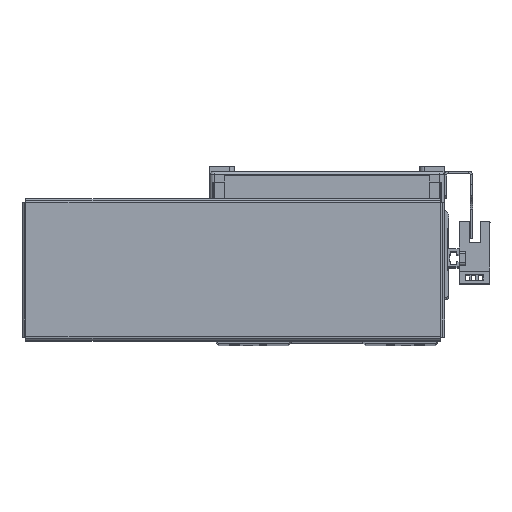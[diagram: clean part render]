
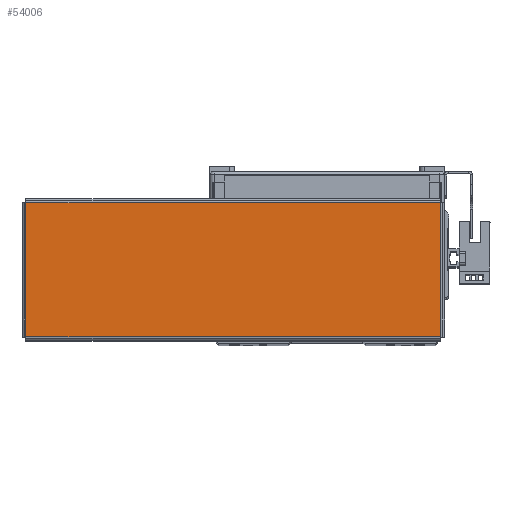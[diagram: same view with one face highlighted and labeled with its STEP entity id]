
A CAD part, top view. The second image highlights one B-rep face of the part: STEP entity #54006.
In plain terms, the highlighted planar face has unit normal (0, 0, 1) as drawn and (0, -1, 0) by its records, which use the part's own axes.
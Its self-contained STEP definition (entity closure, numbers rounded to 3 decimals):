
#16914 = ORIENTED_EDGE ( 'NONE', *, *, #49233, .T. ) ;
#16935 = ORIENTED_EDGE ( 'NONE', *, *, #49227, .T. ) ;
#16945 = ORIENTED_EDGE ( 'NONE', *, *, #49224, .T. ) ;
#17026 = ORIENTED_EDGE ( 'NONE', *, *, #49180, .T. ) ;
#18989 = AXIS2_PLACEMENT_3D ( 'NONE', #40143, #40167, #40121 ) ;
#20040 = EDGE_LOOP ( 'NONE', ( #16914, #17026, #16945, #16935 ) ) ;
#23195 = VERTEX_POINT ( 'NONE', #47226 ) ;
#23254 = VERTEX_POINT ( 'NONE', #47232 ) ;
#23288 = VERTEX_POINT ( 'NONE', #47248 ) ;
#23301 = VERTEX_POINT ( 'NONE', #47203 ) ;
#38192 = FACE_OUTER_BOUND ( 'NONE', #20040, .T. ) ;
#40121 = DIRECTION ( 'NONE',  ( 0., 0., 1. ) ) ;
#40141 = PLANE ( 'NONE',  #18989 ) ;
#40143 = CARTESIAN_POINT ( 'NONE',  ( 0., -1., 0. ) ) ;
#40167 = DIRECTION ( 'NONE',  ( 0., 1., 0. ) ) ;
#47203 = CARTESIAN_POINT ( 'NONE',  ( -91.863, -1., -29.763 ) ) ;
#47226 = CARTESIAN_POINT ( 'NONE',  ( 91.863, -1., 29.763 ) ) ;
#47232 = CARTESIAN_POINT ( 'NONE',  ( -91.863, -1., 29.763 ) ) ;
#47248 = CARTESIAN_POINT ( 'NONE',  ( 91.863, -1., -29.763 ) ) ;
#49180 = EDGE_CURVE ( 'NONE', #23288, #23195, #55245, .T. ) ;
#49224 = EDGE_CURVE ( 'NONE', #23195, #23254, #57360, .T. ) ;
#49227 = EDGE_CURVE ( 'NONE', #23254, #23301, #57340, .T. ) ;
#49233 = EDGE_CURVE ( 'NONE', #23301, #23288, #57353, .T. ) ;
#54006 = ADVANCED_FACE ( 'NONE', ( #38192 ), #40141, .F. ) ;
#55203 = VECTOR ( 'NONE', #57256, 1000. ) ;
#55245 = LINE ( 'NONE', #57267, #55203 ) ;
#57256 = DIRECTION ( 'NONE',  ( 0., 0., 1. ) ) ;
#57267 = CARTESIAN_POINT ( 'NONE',  ( 91.863, -1., -29.793 ) ) ;
#57340 = LINE ( 'NONE', #58551, #57357 ) ;
#57345 = VECTOR ( 'NONE', #58566, 1000. ) ;
#57351 = VECTOR ( 'NONE', #58564, 1000. ) ;
#57353 = LINE ( 'NONE', #58560, #57351 ) ;
#57357 = VECTOR ( 'NONE', #58572, 1000. ) ;
#57360 = LINE ( 'NONE', #58582, #57345 ) ;
#58551 = CARTESIAN_POINT ( 'NONE',  ( -91.863, -1., 29.793 ) ) ;
#58560 = CARTESIAN_POINT ( 'NONE',  ( -91.893, -1., -29.763 ) ) ;
#58564 = DIRECTION ( 'NONE',  ( 1., 0., 0. ) ) ;
#58566 = DIRECTION ( 'NONE',  ( -1., 0., 0. ) ) ;
#58572 = DIRECTION ( 'NONE',  ( 0., 0., -1. ) ) ;
#58582 = CARTESIAN_POINT ( 'NONE',  ( 91.893, -1., 29.763 ) ) ;
